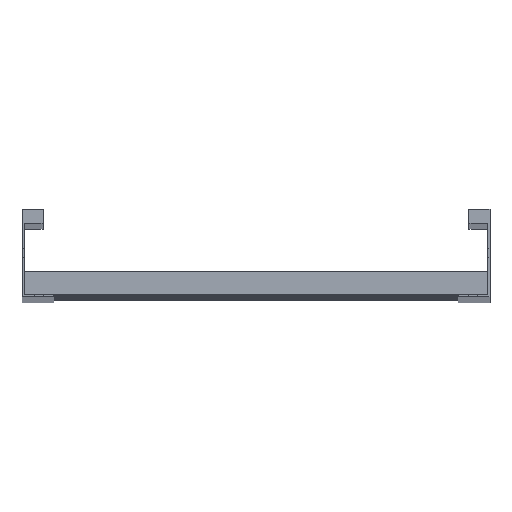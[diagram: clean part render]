
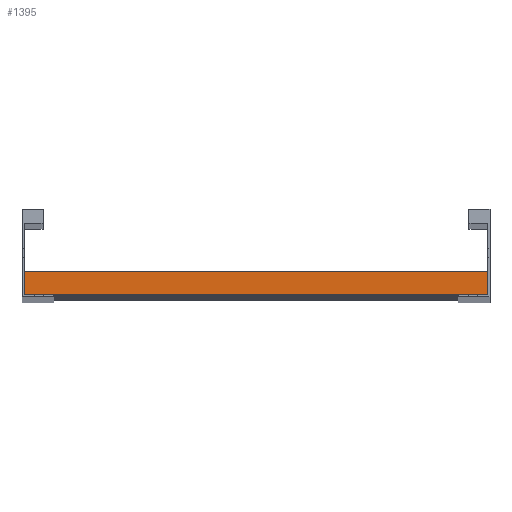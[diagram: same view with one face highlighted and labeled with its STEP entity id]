
A CAD part, top view. The second image highlights one B-rep face of the part: STEP entity #1395.
In plain terms, the highlighted planar face has unit normal (0, 0, 1).
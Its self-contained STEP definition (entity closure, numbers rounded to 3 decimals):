
#18 = DIRECTION ( 'NONE',  ( 0., -1., 0. ) ) ;
#24 = EDGE_LOOP ( 'NONE', ( #739, #620, #373, #1643 ) ) ;
#51 = CARTESIAN_POINT ( 'NONE',  ( -198., 0., 20.25 ) ) ;
#77 = AXIS2_PLACEMENT_3D ( 'NONE', #186, #1255, #726 ) ;
#158 = VECTOR ( 'NONE', #18, 1000. ) ;
#176 = DIRECTION ( 'NONE',  ( 0., -1., 0. ) ) ;
#186 = CARTESIAN_POINT ( 'NONE',  ( 198., 20., 20.25 ) ) ;
#193 = LINE ( 'NONE', #856, #1142 ) ;
#313 = VERTEX_POINT ( 'NONE', #1256 ) ;
#349 = VECTOR ( 'NONE', #473, 1000. ) ;
#373 = ORIENTED_EDGE ( 'NONE', *, *, #1146, .F. ) ;
#419 = EDGE_CURVE ( 'NONE', #1486, #313, #1552, .T. ) ;
#473 = DIRECTION ( 'NONE',  ( -1., 0., 0. ) ) ;
#556 = VERTEX_POINT ( 'NONE', #51 ) ;
#580 = EDGE_CURVE ( 'NONE', #313, #556, #193, .T. ) ;
#620 = ORIENTED_EDGE ( 'NONE', *, *, #1511, .F. ) ;
#705 = PLANE ( 'NONE',  #77 ) ;
#726 = DIRECTION ( 'NONE',  ( 0., 1., 0. ) ) ;
#734 = DIRECTION ( 'NONE',  ( -1., 0., 0. ) ) ;
#739 = ORIENTED_EDGE ( 'NONE', *, *, #580, .T. ) ;
#760 = CARTESIAN_POINT ( 'NONE',  ( 198., 0., 20.25 ) ) ;
#856 = CARTESIAN_POINT ( 'NONE',  ( -198., 20., 20.25 ) ) ;
#1131 = CARTESIAN_POINT ( 'NONE',  ( 198., 20., 20.25 ) ) ;
#1142 = VECTOR ( 'NONE', #176, 1000. ) ;
#1146 = EDGE_CURVE ( 'NONE', #1486, #1348, #1193, .T. ) ;
#1162 = CARTESIAN_POINT ( 'NONE',  ( 198., 20., 20.25 ) ) ;
#1193 = LINE ( 'NONE', #1710, #158 ) ;
#1255 = DIRECTION ( 'NONE',  ( 0., 0., -1. ) ) ;
#1256 = CARTESIAN_POINT ( 'NONE',  ( -198., 20., 20.25 ) ) ;
#1348 = VERTEX_POINT ( 'NONE', #1363 ) ;
#1363 = CARTESIAN_POINT ( 'NONE',  ( 198., 0., 20.25 ) ) ;
#1395 = ADVANCED_FACE ( 'NONE', ( #1632 ), #705, .F. ) ;
#1486 = VERTEX_POINT ( 'NONE', #1131 ) ;
#1511 = EDGE_CURVE ( 'NONE', #1348, #556, #1658, .T. ) ;
#1552 = LINE ( 'NONE', #1162, #349 ) ;
#1588 = VECTOR ( 'NONE', #734, 1000. ) ;
#1632 = FACE_OUTER_BOUND ( 'NONE', #24, .T. ) ;
#1643 = ORIENTED_EDGE ( 'NONE', *, *, #419, .T. ) ;
#1658 = LINE ( 'NONE', #760, #1588 ) ;
#1710 = CARTESIAN_POINT ( 'NONE',  ( 198., 20., 20.25 ) ) ;
